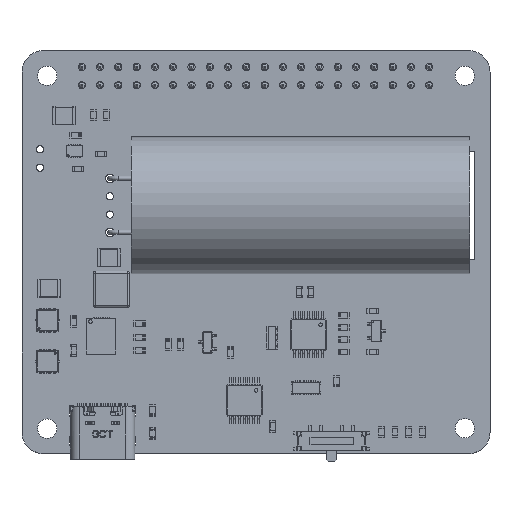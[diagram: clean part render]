
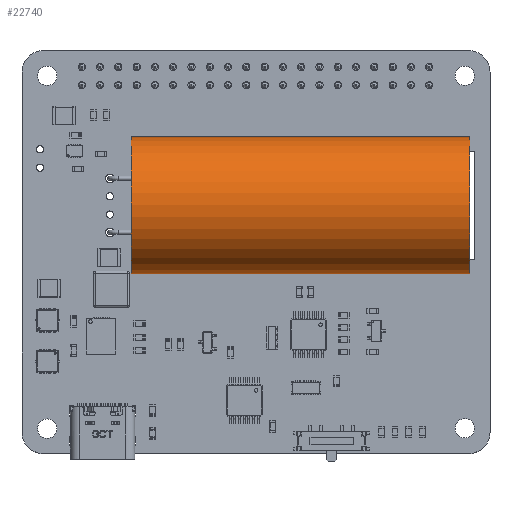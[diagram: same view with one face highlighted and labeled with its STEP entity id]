
A CAD part, top view. The second image highlights one B-rep face of the part: STEP entity #22740.
In plain terms, the highlighted cylindrical face has radius 9.5 mm (diameter 19 mm), a full revolution.
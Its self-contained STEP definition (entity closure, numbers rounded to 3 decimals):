
#22740 = ADVANCED_FACE('',(#22741),#22768,.T.);
#22741 = FACE_BOUND('',#22742,.T.);
#22742 = EDGE_LOOP('',(#22743,#22752,#22760,#22767));
#22743 = ORIENTED_EDGE('',*,*,#22744,.F.);
#22744 = EDGE_CURVE('',#22745,#22745,#22747,.T.);
#22745 = VERTEX_POINT('',#22746);
#22746 = CARTESIAN_POINT('',(9.5,0.,47.));
#22747 = CIRCLE('',#22748,9.5);
#22748 = AXIS2_PLACEMENT_3D('',#22749,#22750,#22751);
#22749 = CARTESIAN_POINT('',(0.,0.,47.));
#22750 = DIRECTION('',(0.,0.,1.));
#22751 = DIRECTION('',(1.,0.,-0.));
#22752 = ORIENTED_EDGE('',*,*,#22753,.F.);
#22753 = EDGE_CURVE('',#22754,#22745,#22756,.T.);
#22754 = VERTEX_POINT('',#22755);
#22755 = CARTESIAN_POINT('',(9.5,0.,0.));
#22756 = LINE('',#22757,#22758);
#22757 = CARTESIAN_POINT('',(9.5,0.,0.));
#22758 = VECTOR('',#22759,1.);
#22759 = DIRECTION('',(0.,0.,1.));
#22760 = ORIENTED_EDGE('',*,*,#22761,.T.);
#22761 = EDGE_CURVE('',#22754,#22754,#22762,.T.);
#22762 = CIRCLE('',#22763,9.5);
#22763 = AXIS2_PLACEMENT_3D('',#22764,#22765,#22766);
#22764 = CARTESIAN_POINT('',(0.,0.,0.));
#22765 = DIRECTION('',(0.,0.,1.));
#22766 = DIRECTION('',(1.,0.,-0.));
#22767 = ORIENTED_EDGE('',*,*,#22753,.T.);
#22768 = CYLINDRICAL_SURFACE('',#22769,9.5);
#22769 = AXIS2_PLACEMENT_3D('',#22770,#22771,#22772);
#22770 = CARTESIAN_POINT('',(0.,0.,0.));
#22771 = DIRECTION('',(0.,0.,1.));
#22772 = DIRECTION('',(1.,0.,-0.));
